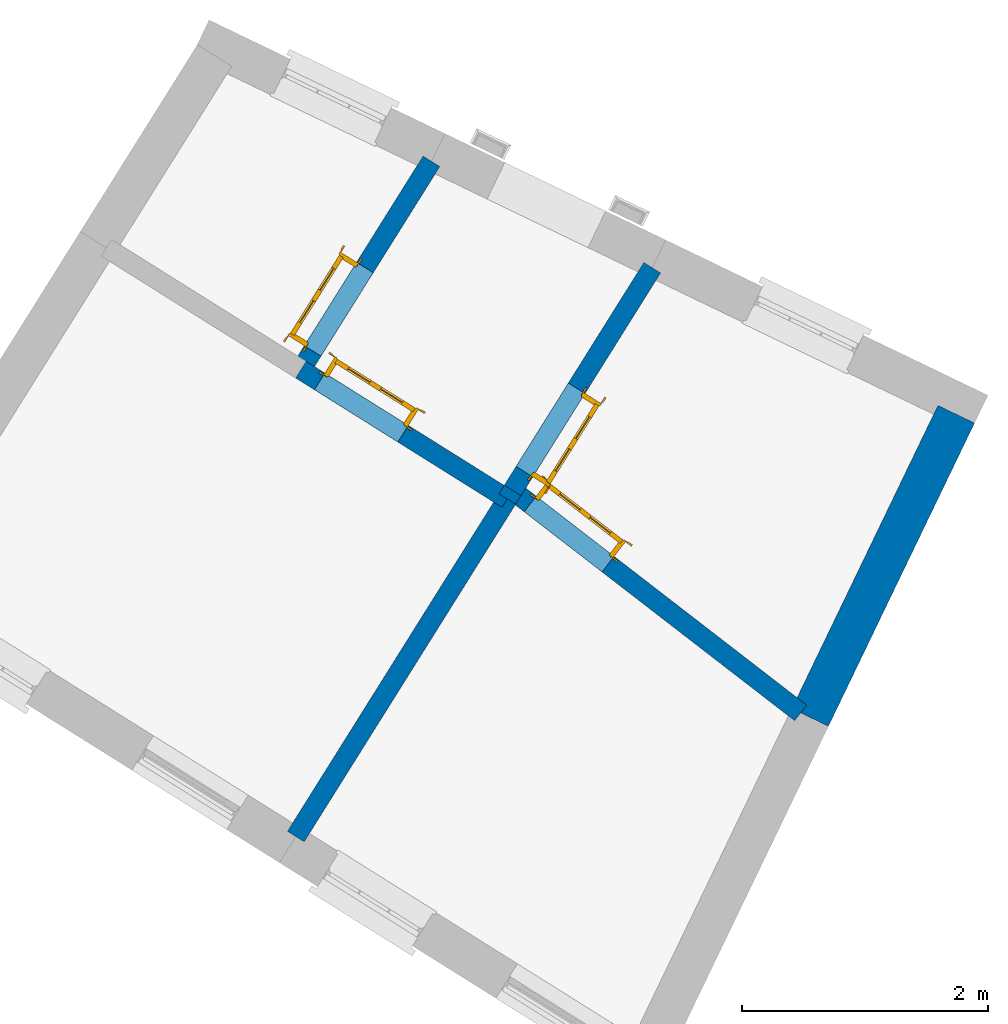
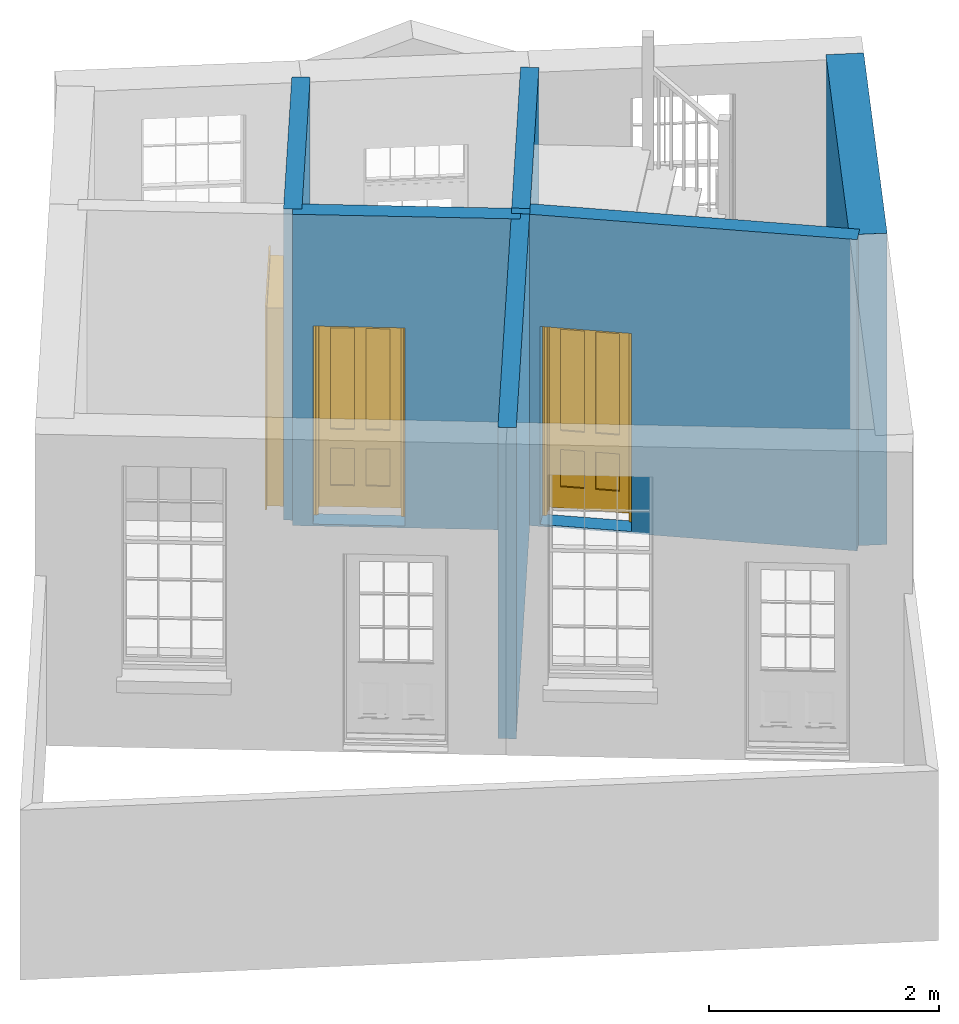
# One storey, part 3 of 6: 7 walls, 4 doors, 4 openings.
"""IFC4 building model written with IfcOpenShell, lengths in metres."""

from ifc_helpers import new_model, si_unit, frame, origin, origin_with_axes, place, context, subcontext, project, spatial, polyline, outline, extrude, faceted_brep, source, transform, mapped, material, layer, layer_set, layer_usage, type_object, type_shapes, element, fill, save


model = new_model("IFC4")

# Units and contexts
model_context = context("Model", 3, world=origin_with_axes())
body_context = subcontext(model_context, "Body", "Model", "MODEL_VIEW")
ifc_project = project(units=[si_unit("PLANEANGLEUNIT", "RADIAN"), si_unit("MASSUNIT", "GRAM", prefix="KILO"), si_unit("FORCEUNIT", "NEWTON", prefix="KILO"), si_unit("LENGTHUNIT", "METRE"), si_unit("AREAUNIT", "SQUARE_METRE"), si_unit("VOLUMEUNIT", "CUBIC_METRE")], contexts=[model_context, model_context])

# Sites, building, storey
site_1_placement = place(None, origin_with_axes())
site_1 = spatial("IfcSite", under=ifc_project, at=site_1_placement, Name="Tamar")
site_2_placement = place(site_1_placement, origin_with_axes())
site_2 = spatial("IfcSite", under=site_1, at=site_2_placement, Name="Site plot-0", CompositionType="ELEMENT")
building_placement = place(None, origin_with_axes())
building = spatial("IfcBuilding", under=site_2, at=building_placement, Name="Building plot-0", CompositionType="ELEMENT")
storey_placement = place(None, frame((0.0, 0.0, 26.0), z_axis=(0.0, 0.0, 1.0), x_axis=(1.0, 0.0, 0.0)))
storey = spatial("IfcBuildingStorey", under=building, at=storey_placement, Name="plot-0 0", CompositionType="ELEMENT", Elevation=26.0)

# Wall
ifc_material_1 = material(Name="Masonry")
ifc_layer_1 = layer(ifc_material_1, 0.33, ventilated=False)
ifc_layer_set_1 = layer_set([ifc_layer_1], Name="party_0.08_0.25")
ifc_layer_usage_1 = layer_usage(ifc_layer_set_1, "AXIS2", "POSITIVE", -0.25)
wall_type_1 = type_object("IfcWallType", Name="party_0.08_0.25", PredefinedType="SOLIDWALL", material=ifc_layer_set_1)
wall_1_placement = place(storey_placement, frame((220.210572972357, 297.615008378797, 0.0), z_axis=(0.0, 0.0, 1.0), x_axis=(0.434117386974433, 0.900856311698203, 0.0)))
element("IfcWall", 1, at=wall_1_placement, inside=storey, type_object=wall_type_1, material=ifc_layer_usage_1, Name="party", context=body_context, shape_type="SweptSolid", body=[
    extrude(outline(polyline([(2.05218200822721e-14, 0.0800000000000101), (3.01578632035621e-14, -0.249999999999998), (2.7359777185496, -0.249999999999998), (2.73597771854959, 0.0800000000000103), (2.05218200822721e-14, 0.0800000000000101)])), origin_with_axes(), (0.0, 0.0, 1.0), 3.3),
])

# Wall, opening, door
ifc_material_2 = material(Name="Masonry")
ifc_layer_2 = layer(ifc_material_2, 0.16, ventilated=False)
ifc_layer_set_2 = layer_set([ifc_layer_2], Name="interior_0.08_0.08")
ifc_layer_usage_2 = layer_usage(ifc_layer_set_2, "AXIS2", "POSITIVE", -0.08)
wall_type_2 = type_object("IfcWallType", Name="interior_0.08_0.08", PredefinedType="SOLIDWALL", material=ifc_layer_set_2)
wall_2_placement = place(storey_placement, frame((219.003924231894, 301.233570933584, 0.0), z_axis=(0.0, 0.0, 1.0), x_axis=(-0.53094514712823, -0.847406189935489, 0.0)))
wall_2 = element("IfcWall", 2, at=wall_2_placement, inside=storey, type_object=wall_type_2, material=ifc_layer_usage_2, Name="interior", context=body_context, shape_type="SweptSolid", body=[
    extrude(outline(polyline([(4.60383202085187e-15, 0.0800000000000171), (-4.57810205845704e-15, -0.0800000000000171), (2.13621268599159, -0.0800000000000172), (2.1362126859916, 0.0800000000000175), (4.60383202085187e-15, 0.0800000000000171)])), origin_with_axes(), (0.0, 0.0, 1.0), 3.3),
])
opening_1_placement = place(wall_2_placement, frame((1.1562126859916, 0.0, 0.0199999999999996)))
opening_1 = element("IfcOpeningElement", 3, at=opening_1_placement, cuts=wall_2, Name="My Opening", ObjectType="Opening", context=body_context, shape_type="SweptSolid", body=[
    extrude(outline(polyline([(0.0, -0.0999999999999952), (0.800000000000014, -0.100000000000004), (0.800000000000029, 1.10000000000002), (1.48769885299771e-14, 1.10000000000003), (0.0, -0.0999999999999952)])), origin_with_axes(), (0.0, 0.0, 1.0), 2.1),
])
door_type = type_object("IfcDoorType", Name="door_inside", OperationType="SINGLE_SWING_LEFT", PredefinedType="NOTDEFINED")
shared_shape = source(origin(), body_context, "Body", "Brep", [
    faceted_brep([(0.773, 0.33, 1.895), (0.66, 0.33, 1.895), (0.66, 0.33, 2.073), (0.773, 0.33, 2.073), (0.773, 0.33, 0.82), (0.66, 0.33, 0.82), (0.45, 0.33, 1.895), (0.45, 0.33, 2.073), (0.773, 0.33, 0.62), (0.66, 0.33, 0.62), (0.66, 0.315, 0.82), (0.66, 0.315, 1.895), (0.45, 0.315, 1.895), (0.35, 0.33, 1.895), (0.35, 0.33, 2.073), (0.773, 0.33, 0.225), (0.66, 0.33, 0.225), (0.45, 0.33, 0.62), (0.45, 0.33, 0.82), (0.45, 0.315, 0.82), (0.35, 0.33, 0.82), (0.14, 0.33, 2.073), (0.14, 0.33, 1.895), (0.773, 0.33, 0.0), (0.66, 0.33, 0.0), (0.66, 0.315, 0.225), (0.66, 0.315, 0.62), (0.45, 0.315, 0.62), (0.35, 0.33, 0.62), (0.35, 0.315, 0.82), (0.35, 0.315, 1.895), (0.14, 0.315, 1.895), (0.027, 0.33, 2.073), (0.027, 0.33, 1.895), (0.773, 0.292, 0.0), (0.66, 0.292, 0.0), (0.45, 0.33, 0.0), (0.45, 0.33, 0.225), (0.45, 0.315, 0.225), (0.35, 0.33, 0.225), (0.14, 0.33, 0.82), (0.14, 0.33, 0.62), (0.14, 0.315, 0.82), (0.027, 0.33, 0.82), (0.773, 0.292, 0.225), (0.66, 0.292, 0.225), (0.45, 0.292, 0.0), (0.35, 0.33, 0.0), (0.35, 0.315, 0.225), (0.35, 0.315, 0.62), (0.14, 0.315, 0.62), (0.027, 0.33, 0.62), (0.773, 0.292, 0.62), (0.66, 0.292, 0.62), (0.45, 0.292, 0.225), (0.35, 0.292, 0.0), (0.14, 0.33, 0.225), (0.14, 0.33, 0.0), (0.14, 0.315, 0.225), (0.027, 0.33, 0.225), (0.773, 0.292, 0.82), (0.66, 0.292, 0.82), (0.66, 0.307, 0.62), (0.66, 0.307, 0.225), (0.45, 0.307, 0.225), (0.35, 0.292, 0.225), (0.14, 0.292, 0.0), (0.027, 0.33, 0.0), (0.773, 0.292, 1.895), (0.66, 0.292, 1.895), (0.45, 0.292, 0.62), (0.45, 0.292, 0.82), (0.45, 0.307, 0.62), (0.35, 0.292, 0.62), (0.14, 0.292, 0.225), (0.027, 0.292, 0.0), (0.773, 0.292, 2.073), (0.66, 0.292, 2.073), (0.66, 0.307, 1.895), (0.66, 0.307, 0.82), (0.45, 0.307, 0.82), (0.35, 0.292, 0.82), (0.35, 0.307, 0.62), (0.35, 0.307, 0.225), (0.14, 0.307, 0.225), (0.027, 0.292, 0.225), (0.45, 0.292, 1.895), (0.45, 0.292, 2.073), (0.45, 0.307, 1.895), (0.35, 0.292, 1.895), (0.14, 0.292, 0.82), (0.14, 0.292, 0.62), (0.14, 0.307, 0.62), (0.027, 0.292, 0.62), (0.35, 0.292, 2.073), (0.35, 0.307, 1.895), (0.35, 0.307, 0.82), (0.14, 0.307, 0.82), (0.027, 0.292, 0.82), (0.14, 0.292, 2.073), (0.14, 0.292, 1.895), (0.14, 0.307, 1.895), (0.027, 0.292, 1.895), (0.027, 0.292, 2.073), (0.02, 0.335, 0.0), (0.005, 0.34, 0.0), (0.005, 0.34, 2.095), (0.02, 0.335, 2.08), (0.02, 0.33, 0.0), (0.0, 0.335, 0.0), (0.0, 0.335, 2.1), (0.795, 0.34, 2.095), (0.78, 0.335, 2.08), (0.02, 0.33, 2.08), (0.0, 0.33, 0.0), (-0.032, 0.345, 0.0), (-0.032, 0.345, 2.132), (0.8, 0.335, 2.1), (0.795, 0.34, 0.0), (0.78, 0.335, 0.0), (0.78, 0.33, 2.08), (0.04, 0.29, 0.0), (0.025, 0.29, 0.0), (0.025, 0.29, 2.075), (0.04, 0.29, 2.06), (-0.04, 0.34, 0.0), (-0.04, 0.34, 2.14), (0.832, 0.345, 2.132), (0.8, 0.335, 0.0), (0.78, 0.33, 0.0), (0.8, 0.33, 0.0), (0.86, 0.33, 0.0), (0.86, 0.33, 2.16), (0.8, 0.33, 2.1), (-0.06, 0.33, 2.16), (0.0, 0.33, 2.1), (-0.06, 0.33, 0.0), (-0.04, 0.345, 0.0), (-0.04, 0.345, 2.14), (0.84, 0.34, 2.14), (0.832, 0.345, 0.0), (0.84, 0.34, 0.0), (0.86, 0.345, 0.0), (0.86, 0.345, 2.16), (-0.06, 0.345, 2.16), (-0.06, 0.345, 0.0), (0.84, 0.345, 0.0), (0.84, 0.345, 2.14), (-0.025, 0.155, 0.0), (-0.025, 0.16, 0.0), (-0.025, 0.16, 2.125), (-0.025, 0.155, 2.125), (-0.017, 0.155, 0.0), (-0.017, 0.155, 2.117), (0.825, 0.16, 2.125), (0.825, 0.155, 2.125), (0.825, 0.155, 0.0), (0.845, 0.155, 0.0), (-0.045, 0.155, 2.145), (-0.045, 0.155, 0.0), (0.845, 0.155, 2.145), (0.015, 0.165, 0.0), (0.015, 0.165, 2.085), (0.817, 0.155, 2.117), (0.825, 0.16, 0.0), (0.845, 0.17, 0.0), (0.845, 0.17, 2.145), (-0.045, 0.17, 2.145), (-0.045, 0.17, 0.0), (0.02, 0.16, 0.0), (0.02, 0.16, 2.08), (0.785, 0.165, 2.085), (0.817, 0.155, 0.0), (0.8, 0.17, 0.0), (0.8, 0.17, 2.1), (0.0, 0.17, 2.1), (0.0, 0.17, 0.0), (0.035, 0.165, 0.0), (0.035, 0.165, 2.065), (0.78, 0.16, 2.08), (0.785, 0.165, 0.0), (0.775, 0.29, 2.075), (0.76, 0.29, 2.06), (0.035, 0.17, 2.065), (0.035, 0.17, 0.0), (0.765, 0.165, 2.065), (0.78, 0.16, 0.0), (0.765, 0.17, 0.0), (0.765, 0.17, 2.065), (0.765, 0.165, 0.0), (0.04, 0.17, 2.06), (0.04, 0.17, 0.0), (0.76, 0.17, 2.06), (0.76, 0.17, 0.0), (0.76, 0.29, 0.0), (0.775, 0.29, 0.0), (0.025, 0.33, 0.0), (0.025, 0.33, 2.075), (0.775, 0.33, 0.0), (0.775, 0.33, 2.075)], [[[0, 1, 2, 3]], [[1, 0, 4, 5]], [[1, 6, 7, 2]], [[8, 9, 5, 4]], [[1, 5, 10, 11]], [[6, 1, 11, 12]], [[6, 13, 14, 7]], [[15, 16, 9, 8]], [[9, 17, 18, 5]], [[5, 18, 19, 10]], [[10, 19, 12, 11]], [[18, 6, 12, 19]], [[18, 20, 13, 6]], [[21, 14, 13, 22]], [[23, 24, 16, 15]], [[9, 16, 25, 26]], [[17, 9, 26, 27]], [[17, 28, 20, 18]], [[13, 20, 29, 30]], [[22, 13, 30, 31]], [[32, 21, 22, 33]], [[34, 35, 24, 23]], [[24, 36, 37, 16]], [[16, 37, 38, 25]], [[25, 38, 27, 26]], [[37, 17, 27, 38]], [[37, 39, 28, 17]], [[40, 20, 28, 41]], [[20, 40, 42, 29]], [[31, 30, 29, 42]], [[40, 22, 31, 42]], [[33, 22, 40, 43]], [[35, 34, 44, 45]], [[35, 46, 36, 24]], [[36, 47, 39, 37]], [[28, 39, 48, 49]], [[41, 28, 49, 50]], [[43, 40, 41, 51]], [[45, 44, 52, 53]], [[46, 35, 45, 54]], [[46, 55, 47, 36]], [[56, 39, 47, 57]], [[39, 56, 58, 48]], [[50, 49, 48, 58]], [[56, 41, 50, 58]], [[51, 41, 56, 59]], [[53, 52, 60, 61]], [[45, 53, 62, 63]], [[54, 45, 63, 64]], [[55, 46, 54, 65]], [[55, 66, 57, 47]], [[59, 56, 57, 67]], [[61, 60, 68, 69]], [[70, 53, 61, 71]], [[53, 70, 72, 62]], [[72, 64, 63, 62]], [[70, 54, 64, 72]], [[65, 54, 70, 73]], [[65, 74, 66, 55]], [[67, 57, 66, 75]], [[69, 68, 76, 77]], [[61, 69, 78, 79]], [[71, 61, 79, 80]], [[73, 70, 71, 81]], [[65, 73, 82, 83]], [[74, 65, 83, 84]], [[74, 85, 75, 66]], [[86, 69, 77, 87]], [[69, 86, 88, 78]], [[88, 80, 79, 78]], [[86, 71, 80, 88]], [[81, 71, 86, 89]], [[73, 81, 90, 91]], [[73, 91, 92, 82]], [[83, 82, 92, 84]], [[91, 74, 84, 92]], [[91, 93, 85, 74]], [[89, 86, 87, 94]], [[81, 89, 95, 96]], [[90, 81, 96, 97]], [[90, 98, 93, 91]], [[94, 99, 100, 89]], [[89, 100, 101, 95]], [[101, 97, 96, 95]], [[100, 90, 97, 101]], [[100, 102, 98, 90]], [[99, 103, 102, 100]], [[32, 103, 99, 21]], [[102, 103, 32, 33]], [[98, 102, 33, 43]], [[21, 99, 94, 14]], [[94, 87, 7, 14]], [[7, 87, 77, 2]], [[76, 3, 2, 77]], [[43, 51, 93, 98]], [[51, 59, 85, 93]], [[67, 75, 85, 59]], [[34, 23, 15, 44]], [[44, 15, 8, 52]], [[52, 8, 4, 60]], [[0, 68, 60, 4]], [[0, 3, 76, 68]], [[104, 105, 106, 107]], [[104, 108, 109, 105]], [[105, 109, 110, 106]], [[107, 106, 111, 112]], [[107, 113, 108, 104]], [[114, 109, 108]], [[109, 115, 116, 110]], [[106, 110, 117, 111]], [[112, 111, 118, 119]], [[113, 107, 112, 120]], [[121, 122, 123, 124]], [[115, 109, 114, 125]], [[115, 125, 126, 116]], [[110, 116, 127, 117]], [[111, 117, 128, 118]], [[118, 128, 129, 119]], [[120, 112, 119, 129]], [[130, 129, 128]], [[130, 131, 132, 133]], [[133, 132, 134, 135]], [[135, 134, 136, 114]], [[136, 125, 114]], [[125, 137, 138, 126]], [[116, 126, 139, 127]], [[117, 127, 140, 128]], [[141, 130, 128, 140]], [[131, 130, 141]], [[131, 142, 143, 132]], [[132, 143, 144, 134]], [[134, 144, 145, 136]], [[137, 125, 136, 145]], [[143, 142, 146]], [[143, 146, 147]], [[137, 145, 144]], [[143, 147, 138]], [[138, 137, 144]], [[143, 138, 144]], [[126, 138, 147, 139]], [[127, 139, 141, 140]], [[142, 131, 141, 146]], [[139, 147, 146, 141]], [[148, 149, 150, 151]], [[149, 152, 153, 150]], [[151, 150, 154, 155]], [[155, 156, 157]], [[158, 159, 148]], [[158, 148, 151]], [[155, 157, 160]], [[158, 151, 155]], [[155, 160, 158]], [[152, 161, 162, 153]], [[150, 153, 163, 154]], [[155, 154, 164, 156]], [[156, 164, 165, 157]], [[157, 165, 166, 160]], [[160, 166, 167, 158]], [[158, 167, 168, 159]], [[161, 169, 170, 162]], [[153, 162, 171, 163]], [[154, 163, 172, 164]], [[165, 164, 173]], [[165, 173, 174, 166]], [[166, 174, 175, 167]], [[167, 175, 176, 168]], [[169, 177, 178, 170]], [[162, 170, 179, 171]], [[163, 171, 180, 172]], [[172, 180, 173, 164]], [[124, 123, 181, 182]], [[183, 178, 177, 184]], [[170, 178, 185, 179]], [[171, 179, 186, 180]], [[187, 173, 180]], [[185, 188, 187, 189]], [[188, 185, 178, 183]], [[179, 185, 189, 186]], [[189, 187, 180, 186]], [[190, 183, 184, 191]], [[192, 188, 183, 190]], [[191, 184, 122, 121]], [[124, 190, 191, 121]], [[193, 187, 188, 192]], [[182, 192, 190, 124]], [[184, 176, 122]], [[194, 195, 187, 193]], [[192, 182, 194, 193]], [[161, 176, 184]], [[114, 108, 122, 176]], [[173, 187, 195]], [[152, 149, 176, 161]], [[169, 161, 184, 177]], [[196, 122, 108]], [[176, 175, 135, 114]], [[173, 195, 129, 130]], [[176, 149, 168]], [[123, 122, 196, 197]], [[196, 108, 113, 197]], [[175, 174, 133, 135]], [[198, 129, 195]], [[133, 174, 173, 130]], [[159, 168, 149, 148]], [[181, 123, 197, 199]], [[197, 113, 120, 199]], [[199, 120, 129, 198]], [[195, 181, 199, 198]], [[195, 194, 182, 181]]]),
])
type_shapes(door_type, [shared_shape])
door_1_placement = place(storey_placement, frame((218.305298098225, 300.306883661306, 0.0199999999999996), z_axis=(0.0, 0.0, 1.0), x_axis=(-0.4247561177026, -0.677924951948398, 0.0)))
door_1 = element("IfcDoor", 4, at=door_1_placement, inside=storey, type_object=door_type, Name="circulation inside door", OverallHeight=2.1, OverallWidth=0.8, context=body_context, shape_type="MappedRepresentation", body=[
    mapped(shared_shape, transform((0.0, 0.0, 0.0), scale=1.0)),
])
fill(opening_1, door_1)

wall_3_placement = place(storey_placement, frame((217.869712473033, 299.423331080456, 0.0), z_axis=(0.0, 0.0, 1.0), x_axis=(0.791370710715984, -0.61133656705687, 0.0)))
wall_3 = element("IfcWall", 5, at=wall_3_placement, inside=storey, type_object=wall_type_2, material=ifc_layer_usage_2, Name="interior", context=body_context, shape_type="SweptSolid", body=[
    extrude(outline(polyline([(1.22262336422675e-14, 0.0799999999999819), (-1.22360308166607e-14, -0.0799999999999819), (2.95798222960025, -0.0799999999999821), (2.95798222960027, 0.0799999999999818), (1.22262336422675e-14, 0.0799999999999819)])), origin_with_axes(), (0.0, 0.0, 1.0), 3.3),
])
opening_2_placement = place(wall_3_placement, frame((0.179999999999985, 0.0, 0.0199999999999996)))
opening_2 = element("IfcOpeningElement", 6, at=opening_2_placement, cuts=wall_3, Name="My Opening", ObjectType="Opening", context=body_context, shape_type="SweptSolid", body=[
    extrude(outline(polyline([(0.0, -0.1), (0.800000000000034, -0.100000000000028), (0.800000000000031, 1.09999999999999), (-2.55351295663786e-15, 1.10000000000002), (0.0, -0.1)])), origin_with_axes(), (0.0, 0.0, 1.0), 2.1),
])
door_2_placement = place(storey_placement, frame((217.951025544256, 299.234153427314, 0.0199999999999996), z_axis=(0.0, 0.0, 1.0), x_axis=(0.633096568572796, -0.489069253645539, 0.0)))
door_2 = element("IfcDoor", 7, at=door_2_placement, inside=storey, type_object=door_type, Name="bedroom inside door", OverallHeight=2.1, OverallWidth=0.8, context=body_context, shape_type="MappedRepresentation", body=[
    mapped(shared_shape, transform((0.0, 0.0, 0.0), scale=1.0)),
])
fill(opening_2, door_2)

wall_4_placement = place(storey_placement, frame((216.148592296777, 300.404698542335, 0.0), z_axis=(0.0, 0.0, 1.0), x_axis=(0.847406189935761, -0.530945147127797, 0.0)))
wall_4 = element("IfcWall", 8, at=wall_4_placement, inside=storey, type_object=wall_type_2, material=ifc_layer_usage_2, Name="interior", context=body_context, shape_type="SweptSolid", body=[
    extrude(outline(polyline([(-2.67740024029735e-15, 0.0799999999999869), (2.68536663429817e-15, -0.0799999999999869), (1.97954018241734, -0.0799999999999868), (1.97954018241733, 0.079999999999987), (-2.67740024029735e-15, 0.0799999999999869)])), origin_with_axes(), (0.0, 0.0, 1.0), 3.3),
])
opening_3_placement = place(wall_4_placement, frame((0.179999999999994, 0.0, 0.0199999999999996)))
opening_3 = element("IfcOpeningElement", 9, at=opening_3_placement, cuts=wall_4, Name="My Opening", ObjectType="Opening", context=body_context, shape_type="SweptSolid", body=[
    extrude(outline(polyline([(0.0, -0.0999999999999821), (0.800000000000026, -0.0999999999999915), (0.799999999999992, 1.10000000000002), (-3.42226247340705e-14, 1.10000000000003), (0.0, -0.0999999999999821)])), origin_with_axes(), (0.0, 0.0, 1.0), 2.1),
])
door_3_placement = place(storey_placement, frame((216.248030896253, 300.224387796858, 0.0199999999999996), z_axis=(0.0, 0.0, 1.0), x_axis=(0.677924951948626, -0.424756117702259, 0.0)))
door_3 = element("IfcDoor", 10, at=door_3_placement, inside=storey, type_object=door_type, Name="bedroom inside door", OverallHeight=2.1, OverallWidth=0.8, context=body_context, shape_type="MappedRepresentation", body=[
    mapped(shared_shape, transform((0.0, 0.0, 0.0), scale=1.0)),
])
fill(opening_3, door_3)

wall_5_placement = place(storey_placement, frame((216.148592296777, 300.404698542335, 0.0), z_axis=(0.0, 0.0, 1.0), x_axis=(0.530945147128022, 0.847406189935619, 0.0)))
wall_5 = element("IfcWall", 11, at=wall_5_placement, inside=storey, type_object=wall_type_2, material=ifc_layer_usage_2, Name="interior", context=body_context, shape_type="SweptSolid", body=[
    extrude(outline(polyline([(-2.39936823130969e-14, 0.0799999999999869), (2.39857159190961e-14, -0.0799999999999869), (1.99846732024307, -0.0799999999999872), (1.99846732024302, 0.0799999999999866), (-2.39936823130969e-14, 0.0799999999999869)])), origin_with_axes(), (0.0, 0.0, 1.0), 3.3),
])
opening_4_placement = place(wall_5_placement, frame((0.179999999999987, 0.0, 0.0199999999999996)))
opening_4 = element("IfcOpeningElement", 12, at=opening_4_placement, cuts=wall_5, Name="My Opening", ObjectType="Opening", context=body_context, shape_type="SweptSolid", body=[
    extrude(outline(polyline([(0.0, -0.0999999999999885), (0.799999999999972, -0.10000000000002), (0.800000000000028, 1.09999999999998), (5.57609514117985e-14, 1.10000000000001), (0.0, -0.0999999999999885)])), origin_with_axes(), (0.0, 0.0, 1.0), 2.1),
])
door_4_placement = place(storey_placement, frame((216.328903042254, 300.504137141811, 0.0199999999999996), z_axis=(0.0, 0.0, 1.0), x_axis=(0.424756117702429, 0.677924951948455, 0.0)))
door_4 = element("IfcDoor", 13, at=door_4_placement, inside=storey, type_object=door_type, Name="toilet inside door", OverallHeight=2.1, OverallWidth=0.8, context=body_context, shape_type="MappedRepresentation", body=[
    mapped(shared_shape, transform((0.0, 0.0, 0.0), scale=1.0)),
])
fill(opening_4, door_4)

# Walls
wall_6_placement = place(storey_placement, frame((217.869712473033, 299.423331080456, 0.0), z_axis=(0.0, 0.0, 1.0), x_axis=(-0.530945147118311, -0.847406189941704, 0.0)))
element("IfcWall", 14, at=wall_6_placement, inside=storey, type_object=wall_type_2, material=ifc_layer_usage_2, Name="interior", context=body_context, shape_type="SweptSolid", body=[
    extrude(outline(polyline([(1.00750110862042e-14, 0.080000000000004), (-1.00848082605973e-14, -0.080000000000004), (0.0822035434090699, -0.080000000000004), (0.08220354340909, 0.0800000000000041), (1.00750110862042e-14, 0.080000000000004)])), origin_with_axes(), (0.0, 0.0, 1.0), 3.3),
])
wall_7_placement = place(storey_placement, frame((217.826066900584, 299.353671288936, 0.0), z_axis=(0.0, 0.0, 1.0), x_axis=(-0.530945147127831, -0.847406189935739, 0.0)))
element("IfcWall", 15, at=wall_7_placement, inside=storey, type_object=wall_type_2, material=ifc_layer_usage_2, Name="interior", context=body_context, shape_type="SweptSolid", body=[
    extrude(outline(polyline([(-5.91220046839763e-15, 0.0799999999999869), (5.93793043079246e-15, -0.0799999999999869), (3.23728866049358, -0.0799999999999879), (3.23728866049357, 0.0799999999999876), (-5.91220046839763e-15, 0.0799999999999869)])), origin_with_axes(), (0.0, 0.0, 1.0), 3.3),
])

save(model, "model.ifc")
